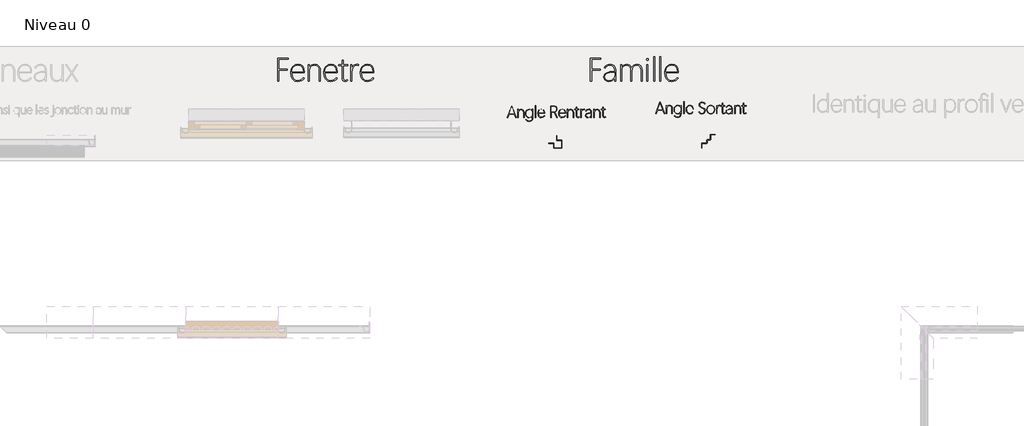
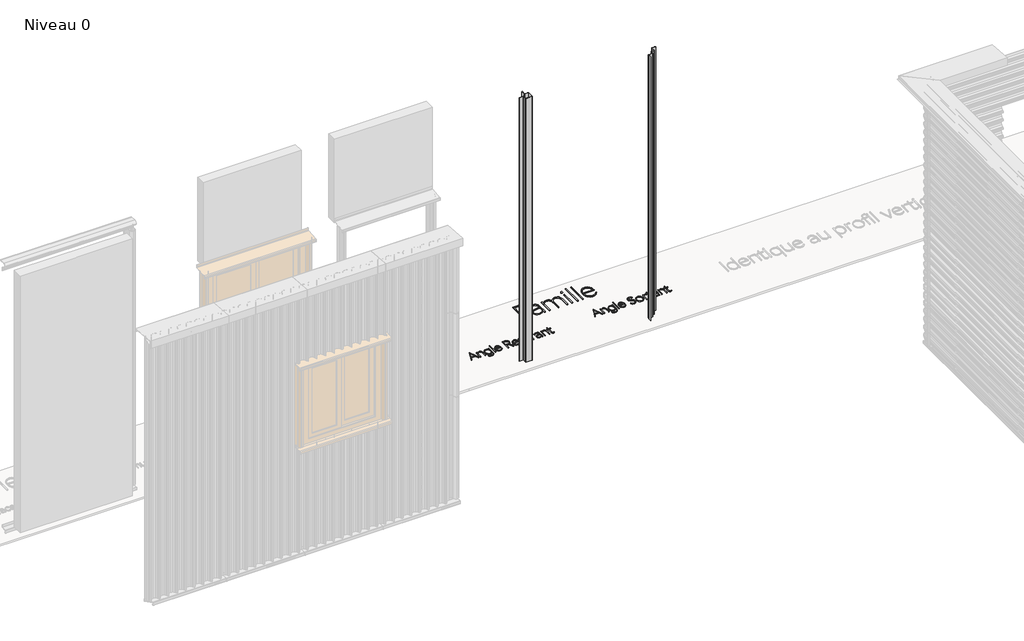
# One storey, part 7 of 11: 6 proxies.
"""IFC4 building model written with IfcOpenShell, lengths in millimetres."""

from ifc_helpers import new_model, si_unit, origin, origin_with_axes, place, context, project, spatial, polyline, outline, extrude, transform, mapped, element, save
from components import generic_models_60d2bb67, generic_models_bf32fdc3

model = new_model("IFC4")

# Units and contexts
model_context = context("Model", 3, world=origin())
ifc_project = project(units=[si_unit("LENGTHUNIT", "METRE", prefix="MILLI")], contexts=[model_context])

# Site, building, storey
site = spatial("IfcSite", under=ifc_project)
building = spatial("IfcBuilding", under=site)
storey = spatial("IfcBuildingStorey", under=building, Name="Niveau 0", Elevation=0.0)

# Proxies
placement = place(None, origin())
generic_models_shape = generic_models_60d2bb67(model_context)
element("IfcBuildingElementProxy", 1, Name="Angle sortant H : Angle sortant H", ObjectType="Angle sortant H : Angle sortant H", at=placement, inside=storey, context=model_context, shape_type="MappedRepresentation", body=[
    mapped(generic_models_shape, transform((8715.0934936, -15342.7379794, 0.0), x_axis=(1.0, 0.0, 0.0), y_axis=(0.0, 1.0, 0.0), z_axis=(0.0, 0.0, 1.0))),
])
generic_models_2_shape = generic_models_bf32fdc3(model_context)
element("IfcBuildingElementProxy", 2, Name="Angle Rentrant H : Angle Rentrant H", ObjectType="Angle Rentrant H : Angle Rentrant H", at=placement, inside=storey, context=model_context, shape_type="MappedRepresentation", body=[
    mapped(generic_models_2_shape, transform((9925.3483146, -15222.5053489, 0.0), x_axis=(-1.0, 0.0, 0.0), y_axis=(0.0, -1.0, 0.0), z_axis=(0.0, 0.0, 1.0))),
])
element("IfcBuildingElementProxy", 3, Name="1mm", ObjectType="1mm", at=placement, inside=storey, context=model_context, shape_type="SweptSolid", body=[
    extrude(outline(polyline([(8243.9321599, -15076.8431786), (8281.3040098, -14976.8377746), (8285.2911339, -14976.8377746), (8322.0976453, -15076.8431786), (8317.1583722, -15076.8431786), (8305.2862638, -15044.5593752), (8260.8625601, -15044.5593752), (8248.8714331, -15076.8431786), (8243.9321599, -15076.8431786)]), holes=[polyline([(8262.4693116, -15040.1556859), (8303.620003, -15040.1556859), (8285.9754911, -14992.101914), (8284.5175128, -14987.9213846), (8283.2678172, -14984.0979111), (8281.6461884, -14987.9660166), (8280.2030875, -14991.9828953), (8262.4693116, -15040.1556859)])]), origin_with_axes(), (0.0, 0.0, 1.0), 10.0),
    extrude(outline(polyline([(8389.8787552, -15076.8431786), (8385.6238392, -15076.8431786), (8385.6238392, -15032.3599656), (8384.2625636, -15022.0016255), (8380.1787368, -15014.2542565), (8373.6699055, -15009.422844), (8365.0336162, -15007.8123731), (8355.4972484, -15009.5381433), (8347.8949334, -15014.7154537), (8342.9184669, -15022.5781219), (8341.2596448, -15032.3599656), (8341.2596448, -15076.8431786), (8336.9452194, -15076.8431786), (8336.9452194, -15005.4320005), (8341.2596448, -15005.4320005), (8341.2596448, -15017.6314101), (8351.0638044, -15007.2767893), (8365.2716534, -15003.6764757), (8375.6560289, -15005.5696158), (8383.4219945, -15011.2490361), (8388.264565, -15020.2089073), (8389.8787552, -15031.9434004), (8389.8787552, -15076.8431786)])), origin_with_axes(), (0.0, 0.0, 1.0), 10.0),
    extrude(outline(polyline([(8465.2026708, -15076.4861227), (8463.2946534, -15091.1923622), (8457.4367052, -15101.8073363), (8447.8594248, -15108.2343423), (8434.7487788, -15110.3766777), (8418.3390851, -15106.5085722), (8406.0950436, -15095.5886129), (8409.7251118, -15092.9404484), (8420.6301938, -15103.0272773), (8434.8380428, -15106.270535), (8445.8621434, -15104.4145882), (8454.1190608, -15098.8467479), (8459.2517393, -15089.4777501), (8460.9031228, -15076.2183308), (8460.9031228, -15061.4897753), (8450.1021821, -15074.0908728), (8434.4809869, -15078.5094395), (8422.15512, -15076.0249256), (8412.4922949, -15068.5713838), (8406.2438169, -15057.019138), (8404.1609908, -15042.2385119), (8406.4781348, -15025.9627142), (8413.4295667, -15013.7930593), (8423.9887507, -15006.2056216), (8437.1291514, -15003.6764757), (8451.2477364, -15007.0982614), (8460.6948402, -15016.857789), (8460.9031228, -15005.4320005), (8465.2026708, -15005.4320005), (8465.2026708, -15076.4861227)]), holes=[polyline([(8460.9031228, -15045.6602975), (8460.9031228, -15030.3366489), (8459.1959493, -15021.5887796), (8454.0744289, -15014.3286431), (8446.4237625, -15009.4414406), (8437.1291514, -15007.8123731), (8425.5136769, -15010.0514111), (8416.4347871, -15016.7685251), (8410.5768389, -15027.5322724), (8408.6241895, -15041.9112107), (8410.4429429, -15055.6057918), (8415.8992032, -15065.86371), (8424.2193493, -15072.2684), (8434.6297602, -15074.4032967), (8445.1852249, -15072.3651027), (8453.583477, -15066.2505206), (8459.0732113, -15057.0265767), (8460.9031228, -15045.6602975)])]), origin_with_axes(), (0.0, 0.0, 1.0), 10.0),
    extrude(outline(polyline([(8487.384768, -15076.8431786), (8487.384768, -14971.1248804), (8491.6991933, -14971.1248804), (8491.6991933, -15076.8431786), (8487.384768, -15076.8431786)])), origin_with_axes(), (0.0, 0.0, 1.0), 10.0),
    extrude(outline(polyline([(8567.8116073, -15039.2779235), (8513.27132, -15039.79863), (8514.9561775, -15055.0218567), (8520.4273152, -15065.819078), (8529.0375692, -15072.2721194), (8540.1397758, -15074.462806), (8553.6483903, -15071.1154071), (8563.1996354, -15061.0732101), (8566.9784769, -15063.0965269), (8556.0287629, -15074.6562113), (8540.1397758, -15078.5987034), (8527.3266764, -15076.1625408), (8517.3923401, -15069.032581), (8511.0211241, -15056.9335934), (8508.8973854, -15039.5903474), (8511.09923, -15024.9473365), (8517.704764, -15013.5103901), (8527.7172063, -15006.1349543), (8540.1397758, -15003.6764757), (8551.8184789, -15005.9266717), (8560.5514709, -15012.6772596), (8565.9965732, -15023.6976409), (8567.8116073, -15039.2779235)]), holes=[polyline([(8563.407918, -15035.7817512), (8561.6449545, -15023.6381316), (8556.891648, -15014.8791043), (8549.5422476, -15009.5790559), (8539.9910025, -15007.8123731), (8529.9376476, -15009.6236879), (8521.7960294, -15015.0576322), (8516.1240478, -15023.8612915), (8513.4796026, -15035.7817512), (8563.407918, -15035.7817512)])]), origin_with_axes(), (0.0, 0.0, 1.0), 10.0),
    extrude(outline(polyline([(8677.7848216, -15076.8431786), (8672.6967752, -15076.8431786), (8659.5749712, -15046.9397478), (8651.1692804, -15034.5171783), (8639.431068, -15031.021006), (8624.7917765, -15031.021006), (8624.7917765, -15076.8431786), (8620.1798046, -15076.8431786), (8620.1798046, -14976.8377746), (8645.7688101, -14976.8377746), (8657.2875819, -14978.5970188), (8666.3144011, -14983.8747511), (8672.1500333, -14992.1577039), (8674.0952441, -15002.9326093), (8672.3843513, -15012.580557), (8667.2516728, -15020.6366305), (8659.5080232, -15026.5131754), (8649.9642168, -15029.6225371), (8657.5962865, -15034.7552155), (8663.6811139, -15045.184223), (8677.7848216, -15076.8431786)]), holes=[polyline([(8624.7917765, -14981.0926907), (8624.7917765, -15026.76609), (8642.7040804, -15026.76609), (8653.5756884, -15025.1035485), (8662.0892398, -15020.115924), (8667.5901321, -15012.5619603), (8669.4237628, -15003.2004012), (8667.8095727, -14994.0210894), (8662.9670022, -14987.0138675), (8655.3200552, -14982.5729849), (8645.2927356, -14981.0926907), (8624.7917765, -14981.0926907)])]), origin_with_axes(), (0.0, 0.0, 1.0), 10.0),
    extrude(outline(polyline([(8748.7199252, -15039.2779235), (8694.1796379, -15039.79863), (8695.8644954, -15055.0218567), (8701.3356331, -15065.819078), (8709.9458871, -15072.2721194), (8721.0480937, -15074.462806), (8734.5567082, -15071.1154071), (8744.1079533, -15061.0732101), (8747.8867948, -15063.0965269), (8736.9370808, -15074.6562113), (8721.0480937, -15078.5987034), (8708.2349943, -15076.1625408), (8698.300658, -15069.032581), (8691.9294419, -15056.9335934), (8689.8057033, -15039.5903474), (8692.0075479, -15024.9473365), (8698.6130819, -15013.5103901), (8708.6255242, -15006.1349543), (8721.0480937, -15003.6764757), (8732.7267968, -15005.9266717), (8741.4597888, -15012.6772596), (8746.9048911, -15023.6976409), (8748.7199252, -15039.2779235)]), holes=[polyline([(8744.3162359, -15035.7817512), (8742.5532724, -15023.6381316), (8737.7999659, -15014.8791043), (8730.4505655, -15009.5790559), (8720.8993204, -15007.8123731), (8710.8459655, -15009.6236879), (8702.7043473, -15015.0576322), (8697.0323657, -15023.8612915), (8694.3879205, -15035.7817512), (8744.3162359, -15035.7817512)])]), origin_with_axes(), (0.0, 0.0, 1.0), 10.0),
    extrude(outline(polyline([(8818.3458239, -15076.8431786), (8814.0909078, -15076.8431786), (8814.0909078, -15032.3599656), (8812.7296322, -15022.0016255), (8808.6458055, -15014.2542565), (8802.1369742, -15009.422844), (8793.5006848, -15007.8123731), (8783.9643171, -15009.5381433), (8776.3620021, -15014.7154537), (8771.3855356, -15022.5781219), (8769.7267134, -15032.3599656), (8769.7267134, -15076.8431786), (8765.4122881, -15076.8431786), (8765.4122881, -15005.4320005), (8769.7267134, -15005.4320005), (8769.7267134, -15017.6314101), (8779.5308731, -15007.2767893), (8793.7387221, -15003.6764757), (8804.1230975, -15005.5696158), (8811.8890632, -15011.2490361), (8816.7316337, -15020.2089073), (8818.3458239, -15031.9434004), (8818.3458239, -15076.8431786)])), origin_with_axes(), (0.0, 0.0, 1.0), 10.0),
    extrude(outline(polyline([(8867.0541983, -15073.3618837), (8861.1776534, -15077.0960932), (8854.7060154, -15078.2416475), (8844.6340638, -15074.3289101), (8841.2569102, -15062.6204523), (8841.2569102, -15009.4191246), (8828.1648608, -15009.4191246), (8828.1648608, -15005.4320005), (8841.2569102, -15005.4320005), (8841.2569102, -14986.2402464), (8845.5713355, -14985.49638), (8845.5713355, -15005.4320005), (8865.0308815, -15005.4320005), (8865.0308815, -15009.4191246), (8845.5713355, -15009.4191246), (8845.5713355, -15062.3229058), (8847.9517081, -15071.293935), (8855.0035619, -15074.2545234), (8859.9130804, -15073.3172517), (8864.554807, -15070.20789), (8867.0541983, -15073.3618837)])), origin_with_axes(), (0.0, 0.0, 1.0), 10.0),
    extrude(outline(polyline([(8911.2696194, -15009.4191246), (8907.8180791, -15008.2438157), (8904.3665388, -15007.9313918), (8896.2323593, -15010.0328145), (8889.6826153, -15016.3370825), (8885.3644706, -15026.59872), (8883.9250891, -15040.5722511), (8883.9250891, -15076.8431786), (8879.6701731, -15076.8431786), (8879.6701731, -15005.4320005), (8883.9250891, -15005.4320005), (8883.9250891, -15021.201969), (8891.9439693, -15008.4669756), (8904.5748214, -15003.9740223), (8908.6809642, -15004.3162009), (8912.9358802, -15005.6402831), (8911.2696194, -15009.4191246)])), origin_with_axes(), (0.0, 0.0, 1.0), 10.0),
    extrude(outline(polyline([(8973.0105338, -15076.8431786), (8968.6663538, -15076.8431786), (8968.6663538, -15063.0965269), (8958.177837, -15074.1950141), (8943.0773483, -15078.5094395), (8933.8682818, -15077.1146899), (8927.0098332, -15072.9304412), (8922.7474785, -15066.5666638), (8921.3266936, -15058.6333282), (8922.8776551, -15050.536342), (8927.5305397, -15044.098178), (8947.0049631, -15036.6148816), (8968.7556177, -15033.5501519), (8968.7556177, -15029.3547452), (8967.3869035, -15020.0415374), (8963.2807608, -15013.2872301), (8956.8388774, -15009.1810874), (8948.4629413, -15007.8123731), (8936.0106171, -15011.1597721), (8927.0395879, -15021.0531957), (8923.0822184, -15018.8215964), (8933.9129138, -15007.5594585), (8948.4629413, -15003.6764757), (8958.5423315, -15005.3427366), (8966.3454905, -15010.341519), (8971.3442729, -15018.4422245), (8973.0105338, -15029.4142545), (8973.0105338, -15076.8431786)]), holes=[polyline([(8968.6663538, -15049.0225738), (8968.6663538, -15037.6562947), (8947.5405469, -15040.5127418), (8931.0564666, -15046.4636733), (8925.7898922, -15058.5143096), (8930.5655148, -15070.2227673), (8943.4344042, -15074.55207), (8953.0042459, -15072.7110006), (8961.1830574, -15067.1877923), (8966.7955297, -15058.9643488), (8968.6663538, -15049.0225738)])]), origin_with_axes(), (0.0, 0.0, 1.0), 10.0),
    extrude(outline(polyline([(9046.8615938, -15076.8431786), (9042.6066778, -15076.8431786), (9042.6066778, -15032.3599656), (9041.2454022, -15022.0016255), (9037.1615754, -15014.2542565), (9030.6527441, -15009.422844), (9022.0164547, -15007.8123731), (9012.480087, -15009.5381433), (9004.877772, -15014.7154537), (8999.9013055, -15022.5781219), (8998.2424834, -15032.3599656), (8998.2424834, -15076.8431786), (8993.928058, -15076.8431786), (8993.928058, -15005.4320005), (8998.2424834, -15005.4320005), (8998.2424834, -15017.6314101), (9008.046643, -15007.2767893), (9022.254492, -15003.6764757), (9032.6388675, -15005.5696158), (9040.4048331, -15011.2490361), (9045.2474036, -15020.2089073), (9046.8615938, -15031.9434004), (9046.8615938, -15076.8431786)])), origin_with_axes(), (0.0, 0.0, 1.0), 10.0),
    extrude(outline(polyline([(9095.5699682, -15073.3618837), (9089.6934233, -15077.0960932), (9083.2217853, -15078.2416475), (9073.1498337, -15074.3289101), (9069.7726801, -15062.6204523), (9069.7726801, -15009.4191246), (9056.6806308, -15009.4191246), (9056.6806308, -15005.4320005), (9069.7726801, -15005.4320005), (9069.7726801, -14986.2402464), (9074.0871054, -14985.49638), (9074.0871054, -15005.4320005), (9093.5466515, -15005.4320005), (9093.5466515, -15009.4191246), (9074.0871054, -15009.4191246), (9074.0871054, -15062.3229058), (9076.4674781, -15071.293935), (9083.5193319, -15074.2545234), (9088.4288504, -15073.3172517), (9093.070577, -15070.20789), (9095.5699682, -15073.3618837)])), origin_with_axes(), (0.0, 0.0, 1.0), 10.0),
])
element("IfcBuildingElementProxy", 4, Name="1mm", ObjectType="1mm", at=placement, inside=storey, context=model_context, shape_type="SweptSolid", body=[
    extrude(outline(polyline([(9527.6619089, -15043.0673813), (9565.0337588, -14943.0619773), (9569.0208829, -14943.0619773), (9605.8273943, -15043.0673813), (9600.8881211, -15043.0673813), (9589.0160128, -15010.7835779), (9544.592309, -15010.7835779), (9532.601182, -15043.0673813), (9527.6619089, -15043.0673813)]), holes=[polyline([(9546.1990605, -15006.3798886), (9587.3497519, -15006.3798886), (9569.70524, -14958.3261166), (9568.2472618, -14954.1455872), (9566.9975662, -14950.3221138), (9565.3759373, -14954.1902192), (9563.9328364, -14958.207098), (9546.1990605, -15006.3798886)])]), origin_with_axes(), (0.0, 0.0, 1.0), 10.0),
    extrude(outline(polyline([(9673.6085042, -15043.0673813), (9669.3535881, -15043.0673813), (9669.3535881, -14998.5841683), (9667.9923125, -14988.2258281), (9663.9084858, -14980.4784592), (9657.3996545, -14975.6470467), (9648.7633651, -14974.0365758), (9639.2269974, -14975.762346), (9631.6246824, -14980.9396564), (9626.6482159, -14988.8023246), (9624.9893937, -14998.5841683), (9624.9893937, -15043.0673813), (9620.6749684, -15043.0673813), (9620.6749684, -14971.6562032), (9624.9893937, -14971.6562032), (9624.9893937, -14983.8556128), (9634.7935534, -14973.500992), (9649.0014024, -14969.9006784), (9659.3857778, -14971.7938185), (9667.1517435, -14977.4732388), (9671.994314, -14986.43311), (9673.6085042, -14998.1676031), (9673.6085042, -15043.0673813)])), origin_with_axes(), (0.0, 0.0, 1.0), 10.0),
    extrude(outline(polyline([(9748.9324197, -15042.7103254), (9747.0244023, -15057.4165649), (9741.1664541, -15068.031539), (9731.5891737, -15074.458545), (9718.4785277, -15076.6008804), (9702.0688341, -15072.7327749), (9689.8247925, -15061.8128156), (9693.4548607, -15059.1646511), (9704.3599427, -15069.25148), (9718.5677917, -15072.4947376), (9729.5918923, -15070.6387909), (9737.8488098, -15065.0709506), (9742.9814882, -15055.7019528), (9744.6328717, -15042.4425335), (9744.6328717, -15027.713978), (9733.831931, -15040.3150755), (9718.2107358, -15044.7336421), (9705.8848689, -15042.2491282), (9696.2220439, -15034.7955865), (9689.9735658, -15023.2433407), (9687.8907398, -15008.4627146), (9690.2078837, -14992.1869169), (9697.1593156, -14980.017262), (9707.7184997, -14972.4298243), (9720.8589003, -14969.9006784), (9734.9774853, -14973.322464), (9744.4245891, -14983.0819917), (9744.6328717, -14971.6562032), (9748.9324197, -14971.6562032), (9748.9324197, -15042.7103254)]), holes=[polyline([(9744.6328717, -15011.8845002), (9744.6328717, -14996.5608516), (9742.9256982, -14987.8129823), (9737.8041778, -14980.5528458), (9730.1535115, -14975.6656433), (9720.8589003, -14974.0365758), (9709.2434259, -14976.2756138), (9700.164536, -14982.9927277), (9694.3065878, -14993.7564751), (9692.3539384, -15008.1354134), (9694.1726918, -15021.8299945), (9699.6289522, -15032.0879127), (9707.9490983, -15038.4926027), (9718.3595091, -15040.6274994), (9728.9149739, -15038.5893054), (9737.313226, -15032.4747232), (9742.8029603, -15023.2507794), (9744.6328717, -15011.8845002)])]), origin_with_axes(), (0.0, 0.0, 1.0), 10.0),
    extrude(outline(polyline([(9771.1145169, -15043.0673813), (9771.1145169, -14937.3490831), (9775.4289423, -14937.3490831), (9775.4289423, -15043.0673813), (9771.1145169, -15043.0673813)])), origin_with_axes(), (0.0, 0.0, 1.0), 10.0),
    extrude(outline(polyline([(9851.5413563, -15005.5021262), (9797.001069, -15006.0228327), (9798.6859265, -15021.2460593), (9804.1570641, -15032.0432807), (9812.7673182, -15038.4963221), (9823.8695248, -15040.6870087), (9837.3781393, -15037.3396097), (9846.9293843, -15027.2974128), (9850.7082259, -15029.3207295), (9839.7585119, -15040.880414), (9823.8695248, -15044.8229061), (9811.0564253, -15042.3867435), (9801.1220891, -15035.2567837), (9794.750873, -15023.1577961), (9792.6271343, -15005.8145501), (9794.828979, -14991.1715392), (9801.434513, -14979.7345927), (9811.4469552, -14972.359157), (9823.8695248, -14969.9006784), (9835.5482278, -14972.1508744), (9844.2812198, -14978.9014623), (9849.7263222, -14989.9218436), (9851.5413563, -15005.5021262)]), holes=[polyline([(9847.137667, -15002.0059539), (9845.3747035, -14989.8623343), (9840.6213969, -14981.103307), (9833.2719965, -14975.8032586), (9823.7207515, -14974.0365758), (9813.6673965, -14975.8478906), (9805.5257784, -14981.2818349), (9799.8537968, -14990.0854942), (9797.2093516, -15002.0059539), (9847.137667, -15002.0059539)])]), origin_with_axes(), (0.0, 0.0, 1.0), 10.0),
    extrude(outline(polyline([(9900.7555598, -15027.6544687), (9904.8914572, -15025.3633601), (9914.6807396, -15036.7593939), (9928.7249379, -15040.4192168), (9938.0307071, -15038.9017293), (9945.5958288, -15034.3492667), (9950.6169272, -15027.2379035), (9952.2906267, -15018.0437143), (9947.3513536, -15002.9729803), (9930.6887453, -14993.4068579), (9911.2291993, -14982.6654265), (9906.6767367, -14975.539186), (9905.1592492, -14966.7169301), (9906.9891606, -14956.7454004), (9912.4788949, -14948.6112209), (9920.9143403, -14943.1995926), (9931.5813851, -14941.3957165), (9946.9794203, -14945.5762459), (9956.694316, -14956.3920639), (9952.5881733, -14958.6236632), (9944.3163785, -14949.1914368), (9931.5218757, -14945.7101418), (9916.1535951, -14951.2593855), (9911.3668146, -14957.7942521), (9909.7712211, -14966.3003649), (9914.9634088, -14979.7494701), (9931.9979503, -14989.0329232), (9951.219459, -15000.2504291), (9955.5264457, -15007.9420081), (9956.9621079, -15017.6271491), (9954.9685459, -15028.5099151), (9948.9878597, -15037.1759591), (9939.9350052, -15042.8442214), (9928.7249379, -15044.7336421), (9912.1367164, -15040.3448302), (9900.7555598, -15027.6544687)])), origin_with_axes(), (0.0, 0.0, 1.0), 10.0),
    extrude(outline(polyline([(10005.3729358, -15044.7336421), (9991.6895126, -15042.1524256), (9980.9294846, -15034.408776), (9973.9557367, -15022.5217903), (9971.6311541, -15007.5105656), (9974.0338427, -14992.3951995), (9981.2419085, -14980.3743179), (9992.1469905, -14972.5190883), (10005.6407277, -14969.9006784), (10019.2534835, -14972.5265269), (10029.9205282, -14980.4040725), (10036.8161701, -14992.3951995), (10039.1147174, -15007.3617923), (10036.7864155, -15022.3544203), (10029.8015096, -15034.3046347), (10019.0377623, -15042.1263903), (10005.3729358, -15044.7336421)]), holes=[polyline([(10005.5217091, -15040.6274994), (10017.4384494, -15038.3103554), (10026.7070252, -15031.3589236), (10032.6653954, -15020.7104755), (10034.6515188, -15007.302283), (10032.6728341, -14993.9015291), (10026.7367799, -14983.275397), (10017.5053974, -14976.3462811), (10005.6407277, -14974.0365758), (9993.70911, -14976.3871938), (9984.2768836, -14983.4390476), (9978.1399855, -14994.1730403), (9976.0943528, -15007.5700749), (9978.1065115, -15020.9076001), (9984.1429876, -15031.4630649), (9993.5119854, -15038.3363908), (10005.5217091, -15040.6274994)])]), origin_with_axes(), (0.0, 0.0, 1.0), 10.0),
    extrude(outline(polyline([(10086.4543776, -14975.6433273), (10083.0028373, -14974.4680183), (10079.551297, -14974.1555944), (10071.4171175, -14976.2570171), (10064.8673735, -14982.5612852), (10060.5492289, -14992.8229227), (10059.1098473, -15006.7964538), (10059.1098473, -15043.0673813), (10054.8549313, -15043.0673813), (10054.8549313, -14971.6562032), (10059.1098473, -14971.6562032), (10059.1098473, -14987.4261717), (10067.1287275, -14974.6911783), (10079.7595796, -14970.198225), (10083.8657224, -14970.5404036), (10088.1206384, -14971.8644858), (10086.4543776, -14975.6433273)])), origin_with_axes(), (0.0, 0.0, 1.0), 10.0),
    extrude(outline(polyline([(10129.8366683, -15039.5860864), (10123.9601234, -15043.3202959), (10117.4884854, -15044.4658502), (10107.4165338, -15040.5531128), (10104.0393802, -15028.844655), (10104.0393802, -14975.6433273), (10090.9473309, -14975.6433273), (10090.9473309, -14971.6562032), (10104.0393802, -14971.6562032), (10104.0393802, -14952.4644491), (10108.3538055, -14951.7205827), (10108.3538055, -14971.6562032), (10127.8133516, -14971.6562032), (10127.8133516, -14975.6433273), (10108.3538055, -14975.6433273), (10108.3538055, -15028.5471084), (10110.7341781, -15037.5181377), (10117.786032, -15040.4787261), (10122.6955505, -15039.5414544), (10127.3372771, -15036.4320927), (10129.8366683, -15039.5860864)])), origin_with_axes(), (0.0, 0.0, 1.0), 10.0),
    extrude(outline(polyline([(10190.0898498, -15043.0673813), (10185.7456698, -15043.0673813), (10185.7456698, -15029.3207295), (10175.257153, -15040.4192168), (10160.1566643, -15044.7336421), (10150.9475978, -15043.3388926), (10144.0891492, -15039.1546439), (10139.8267946, -15032.7908665), (10138.4060097, -15024.8575309), (10139.9569712, -15016.7605447), (10144.6098558, -15010.3223807), (10164.0842791, -15002.8390843), (10185.8349338, -14999.7743546), (10185.8349338, -14995.5789479), (10184.4662195, -14986.2657401), (10180.3600768, -14979.5114328), (10173.9181934, -14975.4052901), (10165.5422573, -14974.0365758), (10153.0899332, -14977.3839748), (10144.1189039, -14987.2773984), (10140.1615345, -14985.0457991), (10150.9922298, -14973.7836612), (10165.5422573, -14969.9006784), (10175.6216476, -14971.5669392), (10183.4248065, -14976.5657217), (10188.423589, -14984.6664272), (10190.0898498, -14995.6384572), (10190.0898498, -15043.0673813)]), holes=[polyline([(10185.7456698, -15015.2467765), (10185.7456698, -15003.8804973), (10164.619863, -15006.7369445), (10148.1357827, -15012.687876), (10142.8692083, -15024.7385123), (10147.6448308, -15036.44697), (10160.5137202, -15040.7762727), (10170.0835619, -15038.9352033), (10178.2623734, -15033.4119949), (10183.8748457, -15025.1885515), (10185.7456698, -15015.2467765)])]), origin_with_axes(), (0.0, 0.0, 1.0), 10.0),
    extrude(outline(polyline([(10263.9409098, -15043.0673813), (10259.6859938, -15043.0673813), (10259.6859938, -14998.5841683), (10258.3247182, -14988.2258281), (10254.2408915, -14980.4784592), (10247.7320601, -14975.6470467), (10239.0957708, -14974.0365758), (10229.559403, -14975.762346), (10221.957088, -14980.9396564), (10216.9806216, -14988.8023246), (10215.3217994, -14998.5841683), (10215.3217994, -15043.0673813), (10211.0073741, -15043.0673813), (10211.0073741, -14971.6562032), (10215.3217994, -14971.6562032), (10215.3217994, -14983.8556128), (10225.1259591, -14973.500992), (10239.3338081, -14969.9006784), (10249.7181835, -14971.7938185), (10257.4841492, -14977.4732388), (10262.3267197, -14986.43311), (10263.9409098, -14998.1676031), (10263.9409098, -15043.0673813)])), origin_with_axes(), (0.0, 0.0, 1.0), 10.0),
    extrude(outline(polyline([(10312.6492842, -15039.5860864), (10306.7727394, -15043.3202959), (10300.3011014, -15044.4658502), (10290.2291498, -15040.5531128), (10286.8519961, -15028.844655), (10286.8519961, -14975.6433273), (10273.7599468, -14975.6433273), (10273.7599468, -14971.6562032), (10286.8519961, -14971.6562032), (10286.8519961, -14952.4644491), (10291.1664215, -14951.7205827), (10291.1664215, -14971.6562032), (10310.6259675, -14971.6562032), (10310.6259675, -14975.6433273), (10291.1664215, -14975.6433273), (10291.1664215, -15028.5471084), (10293.5467941, -15037.5181377), (10300.5986479, -15040.4787261), (10305.5081664, -15039.5414544), (10310.149893, -15036.4320927), (10312.6492842, -15039.5860864)])), origin_with_axes(), (0.0, 0.0, 1.0), 10.0),
])
element("IfcBuildingElementProxy", 5, Name="2mm", ObjectType="2mm", at=placement, inside=storey, context=model_context, shape_type="SweptSolid", body=[
    extrude(outline(polyline([(6347.8173149, -14569.4499627), (6267.3607209, -14569.4499627), (6267.3607209, -14656.6311093), (6342.2234393, -14656.6311093), (6342.2234393, -14665.438488), (6267.3607209, -14665.438488), (6267.3607209, -14760.83192), (6258.1367771, -14760.83192), (6258.1367771, -14560.821112), (6347.8173149, -14560.821112), (6347.8173149, -14569.4499627)])), origin_with_axes(), (0.0, 0.0, 1.0), 10.0),
    extrude(outline(polyline([(6488.5568451, -14686.7428228), (6379.4762705, -14686.7428228), (6382.8459855, -14717.1892761), (6393.7882608, -14738.7837188), (6411.0087689, -14751.6898015), (6433.213182, -14756.0711748), (6447.554927, -14754.3974754), (6460.2304111, -14749.3763769), (6470.9272105, -14741.0078795), (6479.3329012, -14729.291983), (6486.8905843, -14733.3386165), (6477.3095845, -14746.735651), (6464.9911563, -14756.4579854), (6450.2030915, -14762.3717236), (6433.213182, -14764.3429696), (6407.5869832, -14759.4706445), (6387.7183107, -14745.2107248), (6374.9758786, -14721.0127496), (6370.7284012, -14686.3262576), (6375.1320905, -14657.0402359), (6388.3431585, -14634.1663429), (6408.368043, -14619.4154714), (6433.213182, -14614.4985142), (6456.5705882, -14618.9989062), (6474.0365722, -14632.5000821), (6484.9267769, -14654.5408446), (6488.5568451, -14684.6599967), (6488.5568451, -14686.7428228)]), holes=[polyline([(6479.7494664, -14678.7090652), (6476.2235395, -14654.421826), (6466.7169264, -14636.9037714), (6452.0181256, -14626.3036746), (6432.9156355, -14622.770309), (6412.8089256, -14626.3929386), (6396.5256893, -14637.2608273), (6385.1817261, -14654.8681459), (6379.8928357, -14678.7090652), (6479.7494664, -14678.7090652)])]), origin_with_axes(), (0.0, 0.0, 1.0), 10.0),
    extrude(outline(polyline([(6627.8086424, -14760.83192), (6619.2988103, -14760.83192), (6619.2988103, -14671.865494), (6616.5762592, -14651.1488137), (6608.4086057, -14635.6540758), (6595.390943, -14625.9912507), (6578.1183643, -14622.770309), (6559.0456288, -14626.2218493), (6543.8409988, -14636.5764701), (6533.8880658, -14652.3018067), (6530.5704215, -14671.865494), (6530.5704215, -14760.83192), (6521.9415708, -14760.83192), (6521.9415708, -14618.0095638), (6530.5704215, -14618.0095638), (6530.5704215, -14642.408383), (6539.3554842, -14630.4767653), (6550.1787409, -14621.6991414), (6563.3079835, -14616.298671), (6578.5944388, -14614.4985142), (6599.3631898, -14618.2847944), (6614.895121, -14629.6436349), (6624.580262, -14647.5633774), (6627.8086424, -14671.0323636), (6627.8086424, -14760.83192)])), origin_with_axes(), (0.0, 0.0, 1.0), 10.0),
    extrude(outline(polyline([(6774.2015575, -14686.7428228), (6665.1209829, -14686.7428228), (6668.4906979, -14717.1892761), (6679.4329732, -14738.7837188), (6696.6534813, -14751.6898015), (6718.8578945, -14756.0711748), (6733.1996394, -14754.3974754), (6745.8751235, -14749.3763769), (6756.5719229, -14741.0078795), (6764.9776137, -14729.291983), (6772.5352967, -14733.3386165), (6762.954297, -14746.735651), (6750.6358687, -14756.4579854), (6735.8478039, -14762.3717236), (6718.8578945, -14764.3429696), (6693.2316957, -14759.4706445), (6673.3630231, -14745.2107248), (6660.620591, -14721.0127496), (6656.3731136, -14686.3262576), (6660.7768029, -14657.0402359), (6673.9878709, -14634.1663429), (6694.0127554, -14619.4154714), (6718.8578945, -14614.4985142), (6742.2153006, -14618.9989062), (6759.6812846, -14632.5000821), (6770.5714893, -14654.5408446), (6774.2015575, -14684.6599967), (6774.2015575, -14686.7428228)]), holes=[polyline([(6765.3941789, -14678.7090652), (6761.868252, -14654.421826), (6752.3616389, -14636.9037714), (6737.662838, -14626.3036746), (6718.5603479, -14622.770309), (6698.4536381, -14626.3929386), (6682.1704017, -14637.2608273), (6670.8264385, -14654.8681459), (6665.5375482, -14678.7090652), (6765.3941789, -14678.7090652)])]), origin_with_axes(), (0.0, 0.0, 1.0), 10.0),
    extrude(outline(polyline([(6866.1434493, -14753.8693302), (6854.3903596, -14761.3377492), (6841.4470836, -14763.6288579), (6829.7163098, -14761.6724891), (6821.3031804, -14755.8033829), (6816.23745, -14746.0364166), (6814.5488731, -14732.3864674), (6814.5488731, -14625.9838121), (6788.3647745, -14625.9838121), (6788.3647745, -14618.0095638), (6814.5488731, -14618.0095638), (6814.5488731, -14579.6260556), (6823.1777238, -14578.1383227), (6823.1777238, -14618.0095638), (6862.0968159, -14618.0095638), (6862.0968159, -14625.9838121), (6823.1777238, -14625.9838121), (6823.1777238, -14731.7913743), (6827.938469, -14749.7334328), (6833.8447686, -14754.1743154), (6842.0421767, -14755.6546096), (6851.8612137, -14753.7800662), (6861.1446669, -14747.5613428), (6866.1434493, -14753.8693302)])), origin_with_axes(), (0.0, 0.0, 1.0), 10.0),
    extrude(outline(polyline([(6954.5742915, -14625.9838121), (6947.671211, -14623.6331941), (6940.7681304, -14623.0083463), (6924.4997714, -14627.2111917), (6911.4002834, -14639.8197278), (6902.7639941, -14660.3430029), (6899.885231, -14688.290065), (6899.885231, -14760.83192), (6891.3753989, -14760.83192), (6891.3753989, -14618.0095638), (6899.885231, -14618.0095638), (6899.885231, -14649.5495008), (6906.6469769, -14634.939964), (6915.9229914, -14624.079514), (6927.6091331, -14617.340084), (6941.1846957, -14615.0936074), (6949.3969811, -14615.7779645), (6957.9068132, -14618.426129), (6954.5742915, -14625.9838121)])), origin_with_axes(), (0.0, 0.0, 1.0), 10.0),
    extrude(outline(polyline([(7090.3150393, -14686.7428228), (6981.2344647, -14686.7428228), (6984.6041797, -14717.1892761), (6995.546455, -14738.7837188), (7012.766963, -14751.6898015), (7034.9713762, -14756.0711748), (7049.3131212, -14754.3974754), (7061.9886053, -14749.3763769), (7072.6854047, -14741.0078795), (7081.0910954, -14729.291983), (7088.6487784, -14733.3386165), (7079.0677787, -14746.735651), (7066.7493505, -14756.4579854), (7051.9612857, -14762.3717236), (7034.9713762, -14764.3429696), (7009.3451774, -14759.4706445), (6989.4765048, -14745.2107248), (6976.7340728, -14721.0127496), (6972.4865954, -14686.3262576), (6976.8902847, -14657.0402359), (6990.1013527, -14634.1663429), (7010.1262372, -14619.4154714), (7034.9713762, -14614.4985142), (7058.3287824, -14618.9989062), (7075.7947664, -14632.5000821), (7086.684971, -14654.5408446), (7090.3150393, -14684.6599967), (7090.3150393, -14686.7428228)]), holes=[polyline([(7081.5076606, -14678.7090652), (7077.9817337, -14654.421826), (7068.4751206, -14636.9037714), (7053.7763198, -14626.3036746), (7034.6738297, -14622.770309), (7014.5671198, -14626.3929386), (6998.2838835, -14637.2608273), (6986.9399203, -14654.8681459), (6981.6510299, -14678.7090652), (7081.5076606, -14678.7090652)])]), origin_with_axes(), (0.0, 0.0, 1.0), 10.0),
])
element("IfcBuildingElementProxy", 6, Name="2mm", ObjectType="2mm", at=placement, inside=storey, context=model_context, shape_type="SweptSolid", body=[
    extrude(outline(polyline([(9053.9989785, -14569.4499627), (8973.5423845, -14569.4499627), (8973.5423845, -14656.6311093), (9048.4051028, -14656.6311093), (9048.4051028, -14665.438488), (8973.5423845, -14665.438488), (8973.5423845, -14760.83192), (8964.3184406, -14760.83192), (8964.3184406, -14560.821112), (9053.9989785, -14560.821112), (9053.9989785, -14569.4499627)])), origin_with_axes(), (0.0, 0.0, 1.0), 10.0),
    extrude(outline(polyline([(9182.4795897, -14760.83192), (9173.7912297, -14760.83192), (9173.7912297, -14733.3386165), (9164.7532525, -14745.671922), (9152.8141962, -14755.535591), (9138.4650126, -14762.007229), (9122.6132188, -14764.1644417), (9104.1950857, -14761.3749425), (9090.4781886, -14753.0064451), (9081.9534792, -14740.2788903), (9079.1119094, -14724.4122192), (9082.2138325, -14708.2182468), (9091.5196016, -14695.3419188), (9107.4606594, -14685.9915177), (9130.4684484, -14680.375326), (9173.9697577, -14674.2458666), (9173.9697577, -14665.8550532), (9171.2323292, -14647.2286375), (9163.0200437, -14633.720023), (9150.136277, -14625.5077375), (9133.3844048, -14622.770309), (9120.1063889, -14624.4440085), (9108.4797564, -14629.465107), (9098.5937715, -14637.7592178), (9090.5376979, -14649.2519543), (9082.622959, -14644.7887556), (9092.352732, -14631.7785316), (9104.2843497, -14622.2644799), (9118.0756335, -14616.4400056), (9133.3844048, -14614.4985142), (9153.5431853, -14617.8310359), (9169.1495032, -14627.8286008), (9179.1470681, -14644.0300119), (9182.4795897, -14665.9740718), (9182.4795897, -14760.83192)]), holes=[polyline([(9173.7912297, -14705.1907104), (9173.7912297, -14682.4581521), (9131.539616, -14688.1710463), (9112.08007, -14692.6639996), (9098.5714555, -14700.0729093), (9090.6715939, -14710.5316715), (9088.0383067, -14724.174182), (9090.426118, -14737.4075659), (9097.5895518, -14747.5910974), (9108.799619, -14754.0850514), (9123.3273305, -14756.2497028), (9142.467014, -14752.5675639), (9158.824637, -14741.5211473), (9170.0495816, -14725.0742603), (9173.7912297, -14705.1907104)])]), origin_with_axes(), (0.0, 0.0, 1.0), 10.0),
    extrude(outline(polyline([(9411.054869, -14760.83192), (9402.5450369, -14760.83192), (9402.5450369, -14671.865494), (9400.0679617, -14650.033014), (9392.636736, -14634.761436), (9380.8166983, -14625.7680908), (9365.1731871, -14622.770309), (9348.2948576, -14626.2887973), (9334.4366258, -14636.8442621), (9325.1754887, -14652.8448292), (9322.0884429, -14672.6986244), (9322.0884429, -14760.83192), (9313.4595923, -14760.83192), (9313.4595923, -14671.1513822), (9311.1759223, -14650.7099325), (9304.3249124, -14635.4457932), (9292.9660719, -14625.9391801), (9277.1589101, -14622.770309), (9259.4325728, -14626.1474627), (9245.2916718, -14636.2789236), (9236.0305347, -14651.8852414), (9232.9434889, -14671.686966), (9232.9434889, -14760.83192), (9224.3146383, -14760.83192), (9224.3146383, -14618.0095638), (9232.9434889, -14618.0095638), (9232.9434889, -14641.277706), (9241.5574623, -14629.6733896), (9251.8674511, -14621.2825762), (9264.0519834, -14616.1945297), (9277.8730218, -14614.4985142), (9293.0255812, -14616.8342549), (9305.2770614, -14623.8414767), (9314.151388, -14634.7316814), (9319.1724865, -14648.7163704), (9326.6260282, -14634.3225548), (9337.5608649, -14623.5141755), (9350.8314421, -14616.7524296), (9365.2922057, -14614.4985142), (9384.8856477, -14618.1137051), (9399.2720246, -14628.9592778), (9408.1091579, -14646.7376857), (9411.054869, -14671.1513822), (9411.054869, -14760.83192)])), origin_with_axes(), (0.0, 0.0, 1.0), 10.0),
    extrude(outline(polyline([(9456.3414578, -14583.1371052), (9449.7656785, -14580.637714), (9447.1175139, -14574.0916893), (9449.7656785, -14567.51591), (9456.3414578, -14564.9867641), (9463.0660104, -14567.51591), (9465.5058923, -14574.0916893), (9463.0660104, -14580.637714), (9456.3414578, -14583.1371052)])), origin_with_axes(), (0.0, 0.0, 1.0), 10.0),
    extrude(outline(polyline([(9460.8046564, -14760.83192), (9452.1162964, -14760.83192), (9452.1162964, -14618.0095638), (9460.8046564, -14618.0095638), (9460.8046564, -14760.83192)])), origin_with_axes(), (0.0, 0.0, 1.0), 10.0),
    extrude(outline(polyline([(9509.9593507, -14760.83192), (9509.9593507, -14549.3953235), (9518.5882014, -14549.3953235), (9518.5882014, -14760.83192), (9509.9593507, -14760.83192)])), origin_with_axes(), (0.0, 0.0, 1.0), 10.0),
    extrude(outline(polyline([(9563.279697, -14760.83192), (9563.279697, -14549.3953235), (9571.9085477, -14549.3953235), (9571.9085477, -14760.83192), (9563.279697, -14760.83192)])), origin_with_axes(), (0.0, 0.0, 1.0), 10.0),
    extrude(outline(polyline([(9724.1333757, -14686.7428228), (9615.0528011, -14686.7428228), (9618.4225161, -14717.1892761), (9629.3647914, -14738.7837188), (9646.5852995, -14751.6898015), (9668.7897127, -14756.0711748), (9683.1314576, -14754.3974754), (9695.8069417, -14749.3763769), (9706.5037411, -14741.0078795), (9714.9094319, -14729.291983), (9722.4671149, -14733.3386165), (9712.8861151, -14746.735651), (9700.5676869, -14756.4579854), (9685.7796221, -14762.3717236), (9668.7897127, -14764.3429696), (9643.1635138, -14759.4706445), (9623.2948413, -14745.2107248), (9610.5524092, -14721.0127496), (9606.3049318, -14686.3262576), (9610.7086211, -14657.0402359), (9623.9196891, -14634.1663429), (9643.9445736, -14619.4154714), (9668.7897127, -14614.4985142), (9692.1471188, -14618.9989062), (9709.6131028, -14632.5000821), (9720.5033075, -14654.5408446), (9724.1333757, -14684.6599967), (9724.1333757, -14686.7428228)]), holes=[polyline([(9715.3259971, -14678.7090652), (9711.8000701, -14654.421826), (9702.2934571, -14636.9037714), (9687.5946562, -14626.3036746), (9668.4921661, -14622.770309), (9648.3854562, -14626.3929386), (9632.1022199, -14637.2608273), (9620.7582567, -14654.8681459), (9615.4693663, -14678.7090652), (9715.3259971, -14678.7090652)])]), origin_with_axes(), (0.0, 0.0, 1.0), 10.0),
])

save(model, "model.ifc")
